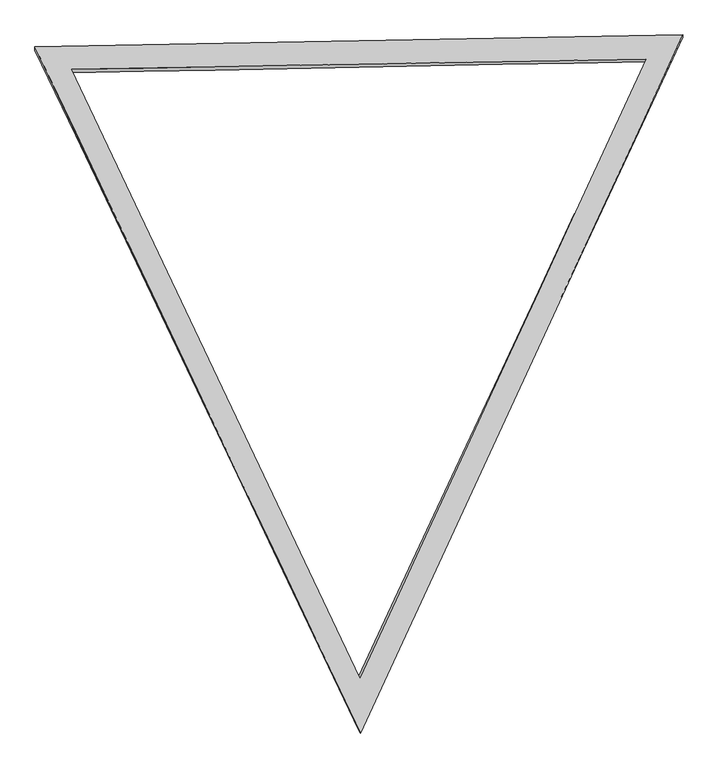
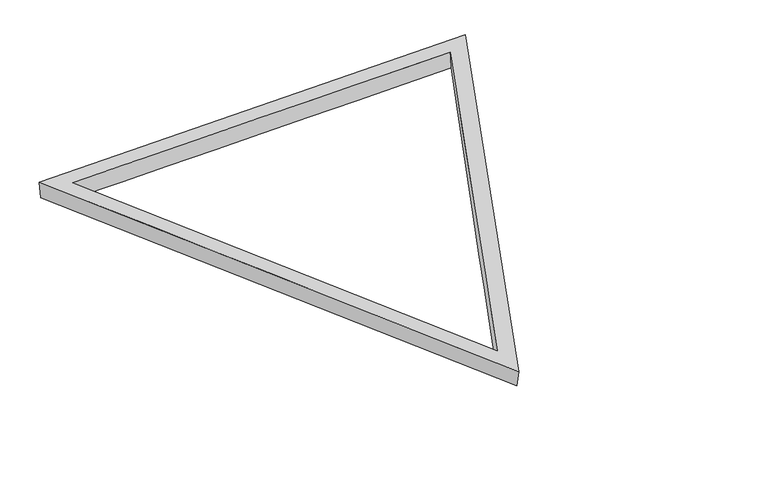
"""IFC4 building model written with IfcOpenShell, lengths in millimetres: plate geometry."""

from ifc_helpers import new_model, si_unit, frame, origin, place, context, project, spatial, source, transform, mapped, element, save
from ifc_brep_helpers import plane_surface, spline_surface, advanced_brep


def plate_38db130b(model_context):
    return source(origin(), model_context, "Body", "AdvancedBrep", [
        advanced_brep(
        [(3603.9015288, 6812.9893146, 0.0), (3602.9516986, 6843.5605778, 200.8878449), (6105.6456636, 1568.157611, 201.7329737), (6094.302439, 1585.9854308, 0.0), (8586.1128572, 6933.2334817, 201.9264978), (8584.7033492, 6910.4660196, 0.0), (6096.0, 1110.0004027, 0.0), (8907.0425513, 7120.0132635, 0.0), (8906.6076858, 7142.233743, 201.9809426), (6108.0171948, 1089.0795816, 201.7625988), (3284.9574487, 7009.9863338, 0.0), (3284.3493187, 7041.060167, 200.8090812)],
        [
            (0, 1),
            (1, 2),
            (2, 3),
            (3, 0),
            (2, 4),
            (4, 5),
            (5, 3),
            (0, 5),
            (4, 1),
            (6, 7),
            (7, 8),
            (8, 9),
            (9, 6),
            (7, 10),
            (10, 11),
            (11, 8),
            (9, 11),
            (10, 6),
        ],
        [
            spline_surface(1, 1, [[(3603.9015288, 6812.9893146, 0.0), (6094.302439, 1585.9854308, 0.0)], [(3602.9516986, 6843.5605778, 200.8878449), (6105.6456636, 1568.157611, 201.7329737)]], [2, 2], [2, 2], [0.0, 1.0], [0.0, 1.0]),
            spline_surface(1, 1, [[(6094.302439, 1585.9854308, 0.0), (8584.7033492, 6910.4660196, 0.0)], [(6105.6456636, 1568.157611, 201.7329737), (8586.1128572, 6933.2334817, 201.9264978)]], [2, 2], [2, 2], [0.0, 1.0], [0.0, 1.0]),
            spline_surface(1, 1, [[(8584.7033492, 6910.4660196, 0.0), (3603.9015288, 6812.9893146, 0.0)], [(8586.1128572, 6933.2334817, 201.9264978), (3602.9516986, 6843.5605778, 200.8878449)]], [2, 2], [2, 2], [0.0, 1.0], [0.0, 1.0]),
            spline_surface(1, 1, [[(6096.0, 1110.0004027, 0.0), (6108.0171948, 1089.0795816, 201.7625988)], [(8907.0425513, 7120.0132635, 0.0), (8906.6076858, 7142.233743, 201.9809426)]], [2, 2], [2, 2], [0.0, 1.0], [0.0, 1.0]),
            spline_surface(1, 1, [[(8907.0425513, 7120.0132635, 0.0), (8906.6076858, 7142.233743, 201.9809426)], [(3284.9574487, 7009.9863338, 0.0), (3284.3493187, 7041.060167, 200.8090812)]], [2, 2], [2, 2], [0.0, 1.0], [0.0, 1.0]),
            spline_surface(1, 1, [[(3284.9574487, 7009.9863338, 0.0), (3284.3493187, 7041.060167, 200.8090812)], [(6096.0, 1110.0004027, 0.0), (6108.0171948, 1089.0795816, 201.7625988)]], [2, 2], [2, 2], [0.0, 1.0], [0.0, 1.0]),
            plane_surface(frame((6099.6580664, 5090.7911638, 201.5175409), z_axis=(-0.00020952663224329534, 6.080060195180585e-05, 0.9999999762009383), x_axis=(0.42862044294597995, -0.9034846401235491, 0.00014473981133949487))),
            plane_surface(frame((6096.0, 5080.0, 0.0), z_axis=(0.0, 0.0, -1.0000000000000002), x_axis=(-0.4301238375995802, 0.9027698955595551, 0.0))),
        ],
        [
            (0, [[1, 2, 3, 4]]),
            (1, [[-3, 5, 6, 7]]),
            (2, [[-1, 8, -6, 9]]),
            (3, [[10, 11, 12, 13]]),
            (4, [[-11, 14, 15, 16]]),
            (5, [[-13, 17, -15, 18]]),
            (6, [[-12, -16, -17], [-2, -9, -5]]),
            (7, [[-10, -18, -14], [-4, -7, -8]]),
        ],
    ),
    ])


if __name__ == "__main__":
    model = new_model("IFC4")
    model_context = context("Model", 3, world=origin())
    ifc_project = project(units=[si_unit("LENGTHUNIT", "METRE", prefix="MILLI")], contexts=[model_context])
    site = spatial("IfcSite", under=ifc_project)
    building = spatial("IfcBuilding", under=site)
    placement = place(None, origin())
    plate_shape = plate_38db130b(model_context)
    element("IfcPlate", 1, ObjectType="tn_cpanel_patbase_triangle_flat_seamless_frame_02_cylinder : tn_triangle_seamless_frame_t8\"xh8\"", at=placement, inside=building, context=model_context, shape_type="MappedRepresentation", body=[
        mapped(plate_shape, transform((0.0, 0.0, 0.0), x_axis=(1.0, 0.0, 0.0), y_axis=(0.0, 1.0, 0.0), z_axis=(0.0, 0.0, 1.0))),
    ])
    save(model, "model.ifc")
